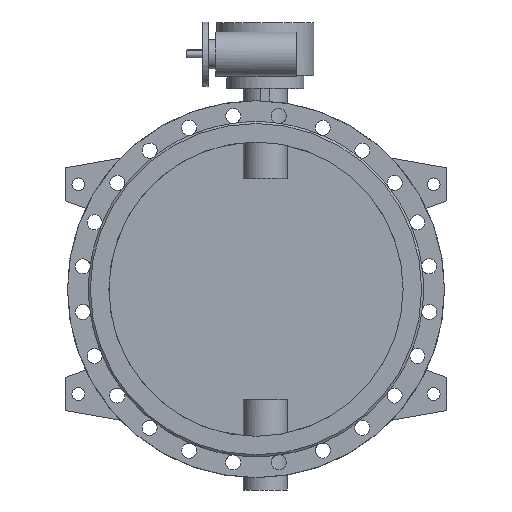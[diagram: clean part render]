
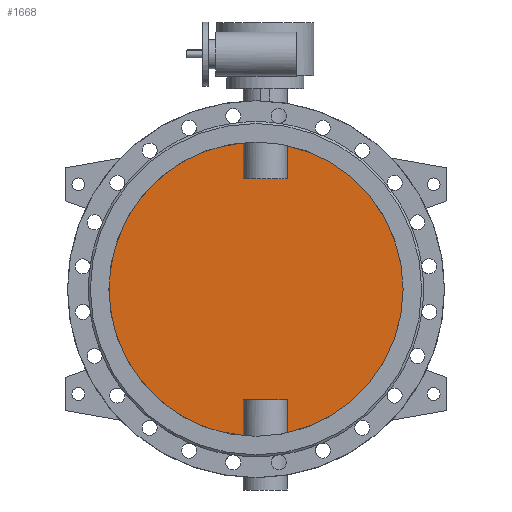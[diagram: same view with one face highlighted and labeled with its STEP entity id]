
A CAD part, front view. The second image highlights one B-rep face of the part: STEP entity #1668.
In plain terms, the highlighted planar face has unit normal (0, -1, 0).
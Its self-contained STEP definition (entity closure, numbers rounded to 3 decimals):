
#1668=ADVANCED_FACE('',(#3402),#3404,.F.);
#3402=FACE_BOUND('',#3403,.T.);
#3403=EDGE_LOOP('',(#4586,#4587,#4588,#4589,#4590,#4591,#4592,#4593));
#3404=PLANE('',#3405);
#3405=AXIS2_PLACEMENT_3D('',#3406,#3407,#3408);
#3406=CARTESIAN_POINT('',(0.,-5.,0.));
#3407=DIRECTION('',(0.,1.,0.));
#3408=DIRECTION('',(1.,0.,0.));
#4586=ORIENTED_EDGE('',*,*,#5178,.T.);
#4587=ORIENTED_EDGE('',*,*,#5184,.T.);
#4588=ORIENTED_EDGE('',*,*,#5185,.T.);
#4589=ORIENTED_EDGE('',*,*,#5186,.T.);
#4590=ORIENTED_EDGE('',*,*,#5180,.T.);
#4591=ORIENTED_EDGE('',*,*,#5187,.T.);
#4592=ORIENTED_EDGE('',*,*,#5188,.T.);
#4593=ORIENTED_EDGE('',*,*,#5189,.T.);
#5178=EDGE_CURVE('',#6155,#6156,#6157,.F.);
#5180=EDGE_CURVE('',#6160,#6158,#6161,.F.);
#5184=EDGE_CURVE('',#6156,#6167,#6168,.T.);
#5185=EDGE_CURVE('',#6167,#6169,#6170,.F.);
#5186=EDGE_CURVE('',#6169,#6160,#6171,.F.);
#5187=EDGE_CURVE('',#6158,#6172,#6173,.F.);
#5188=EDGE_CURVE('',#6172,#6174,#6175,.F.);
#5189=EDGE_CURVE('',#6174,#6155,#6176,.T.);
#6155=VERTEX_POINT('',#11711);
#6156=VERTEX_POINT('',#11712);
#6157=CIRCLE('',#11713,400.);
#6158=VERTEX_POINT('',#11717);
#6160=VERTEX_POINT('',#11824);
#6161=CIRCLE('',#11825,400.);
#6167=VERTEX_POINT('',#11946);
#6168=LINE('',#11947,#11948);
#6169=VERTEX_POINT('',#11950);
#6170=LINE('',#11951,#11952);
#6171=LINE('',#11954,#11955);
#6172=VERTEX_POINT('',#11957);
#6173=LINE('',#11958,#11959);
#6174=VERTEX_POINT('',#11961);
#6175=LINE('',#11962,#11963);
#6176=LINE('',#11965,#11966);
#11711=CARTESIAN_POINT('',(84.791,-5.,-390.91));
#11712=CARTESIAN_POINT('',(84.791,-5.,390.91));
#11713=AXIS2_PLACEMENT_3D('',#11714,#11715,#11716);
#11714=CARTESIAN_POINT('',(0.,-5.,0.));
#11715=DIRECTION('',(0.,1.,0.));
#11716=DIRECTION('',(0.212,0.,0.977));
#11717=CARTESIAN_POINT('',(-34.791,-5.,-398.484));
#11824=CARTESIAN_POINT('',(-34.791,-5.,398.484));
#11825=AXIS2_PLACEMENT_3D('',#11826,#11827,#11828);
#11826=CARTESIAN_POINT('',(0.,-5.,0.));
#11827=DIRECTION('',(0.,1.,0.));
#11828=DIRECTION('',(-0.087,0.,-0.996));
#11946=CARTESIAN_POINT('',(84.791,-5.,300.));
#11947=CARTESIAN_POINT('',(84.791,-5.,390.91));
#11948=VECTOR('',#11949,1.);
#11949=DIRECTION('',(0.,0.,-1.));
#11950=CARTESIAN_POINT('',(-34.791,-5.,300.));
#11951=CARTESIAN_POINT('',(-34.791,-5.,300.));
#11952=VECTOR('',#11953,1.);
#11953=DIRECTION('',(1.,0.,0.));
#11954=CARTESIAN_POINT('',(-34.791,-5.,398.484));
#11955=VECTOR('',#11956,1.);
#11956=DIRECTION('',(0.,0.,-1.));
#11957=CARTESIAN_POINT('',(-34.791,-5.,-300.));
#11958=CARTESIAN_POINT('',(-34.791,-5.,-300.));
#11959=VECTOR('',#11960,1.);
#11960=DIRECTION('',(0.,0.,-1.));
#11961=CARTESIAN_POINT('',(84.791,-5.,-300.));
#11962=CARTESIAN_POINT('',(84.791,-5.,-300.));
#11963=VECTOR('',#11964,1.);
#11964=DIRECTION('',(-1.,0.,0.));
#11965=CARTESIAN_POINT('',(84.791,-5.,-300.));
#11966=VECTOR('',#11967,1.);
#11967=DIRECTION('',(0.,0.,-1.));
